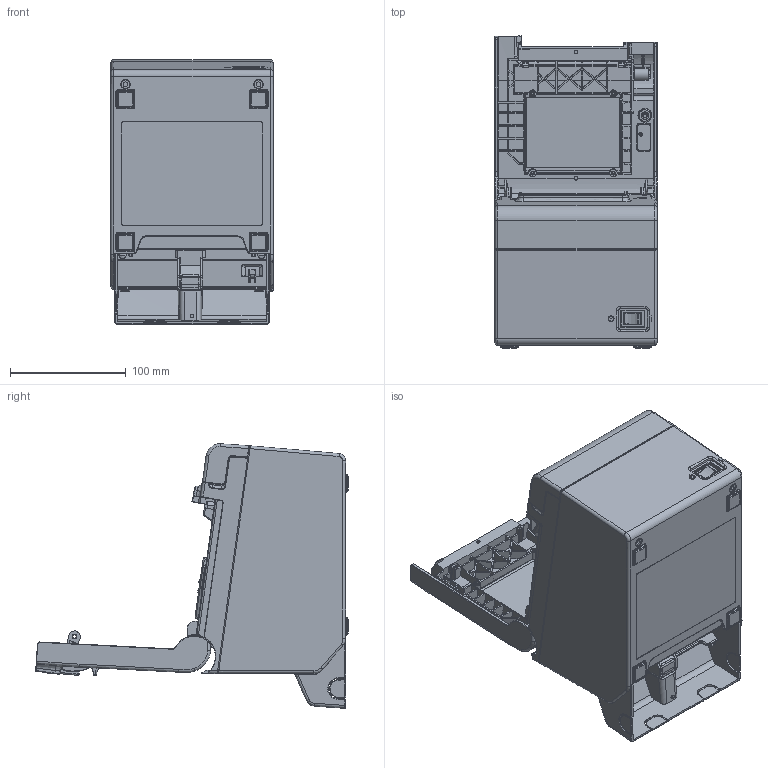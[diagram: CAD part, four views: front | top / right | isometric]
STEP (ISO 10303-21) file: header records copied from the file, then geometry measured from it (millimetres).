
FILE_DESCRIPTION((''),'2;1');
FILE_NAME('TM-T900F_OPEN_SW_','2025-01-28T14:29:34',('5012938'),(''),'CREO PARAMETRIC BY PTC INC, 2022281','CREO PARAMETRIC BY PTC INC, 2022281','');
FILE_SCHEMA(('AUTOMOTIVE_DESIGN { 1 0 10303 214 1 1 1 1 }'));
Products named in the file (1): TM-T900F_OPEN_SW_
Bounding box: 140 x 269.89 x 228.6 mm (x, y, z)
Surface area: 455980.7 mm2 (no closed solid volume)
Topology: 0 solids, 57 shells, 4154 faces, 12563 edges, 8281 vertices
Faces by surface type: plane 2274, cylinder 1265, bspline 343, torus 117, cone 110, sphere 37, extrusion 8
Entity records: 188167 total; most frequent: CARTESIAN_POINT 78790, ORIENTED_EDGE 22891, DIRECTION 21295, EDGE_CURVE 12551, VECTOR 8413, LINE 8405, VERTEX_POINT 8281, AXIS2_PLACEMENT_3D 6441
